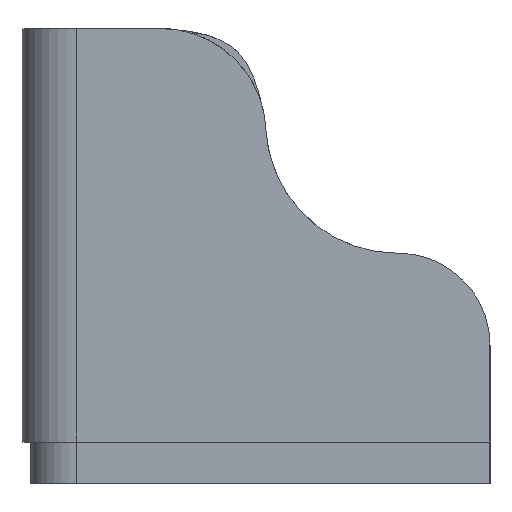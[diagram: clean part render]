
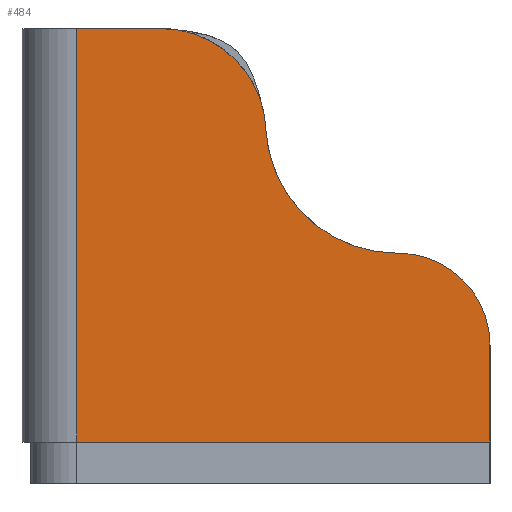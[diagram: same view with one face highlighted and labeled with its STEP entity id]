
A CAD part, left-side view. The second image highlights one B-rep face of the part: STEP entity #484.
In plain terms, the highlighted planar face has unit normal (-1, 0, 0).
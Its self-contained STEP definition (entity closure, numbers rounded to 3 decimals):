
#22=PLANE('',#534);
#38=B_SPLINE_CURVE_WITH_KNOTS('',3,(#916,#917,#918,#919,#920,#921,#922,
#923,#924,#925,#926,#927,#928,#929,#930,#931,#932,#933,#934),
 .UNSPECIFIED.,.F.,.F.,(4,3,3,3,3,3,4),(0.,0.49,0.979,
1.469,1.959,2.938,3.428),
 .UNSPECIFIED.);
#50=FACE_OUTER_BOUND('',#76,.T.);
#76=EDGE_LOOP('',(#382,#383,#384,#385,#386,#387,#388));
#102=LINE('',#824,#146);
#110=LINE('',#937,#154);
#114=LINE('',#945,#158);
#115=LINE('',#946,#159);
#146=VECTOR('',#592,10.);
#154=VECTOR('',#620,10.);
#158=VECTOR('',#626,10.);
#159=VECTOR('',#627,10.);
#187=CIRCLE('',#527,20.);
#190=CIRCLE('',#531,28.64);
#215=VERTEX_POINT('',#821);
#216=VERTEX_POINT('',#823);
#221=VERTEX_POINT('',#838);
#222=VERTEX_POINT('',#839);
#226=VERTEX_POINT('',#849);
#229=VERTEX_POINT('',#936);
#232=VERTEX_POINT('',#944);
#268=EDGE_CURVE('',#215,#216,#102,.T.);
#274=EDGE_CURVE('',#221,#222,#187,.T.);
#280=EDGE_CURVE('',#221,#226,#190,.T.);
#285=EDGE_CURVE('',#216,#226,#38,.T.);
#286=EDGE_CURVE('',#229,#222,#110,.T.);
#290=EDGE_CURVE('',#232,#215,#114,.T.);
#291=EDGE_CURVE('',#229,#232,#115,.T.);
#382=ORIENTED_EDGE('',*,*,#274,.F.);
#383=ORIENTED_EDGE('',*,*,#280,.T.);
#384=ORIENTED_EDGE('',*,*,#285,.F.);
#385=ORIENTED_EDGE('',*,*,#268,.F.);
#386=ORIENTED_EDGE('',*,*,#290,.F.);
#387=ORIENTED_EDGE('',*,*,#291,.F.);
#388=ORIENTED_EDGE('',*,*,#286,.T.);
#484=ADVANCED_FACE('',(#50),#22,.T.);
#527=AXIS2_PLACEMENT_3D('',#840,#601,#602);
#531=AXIS2_PLACEMENT_3D('',#854,#611,#612);
#534=AXIS2_PLACEMENT_3D('',#943,#624,#625);
#592=DIRECTION('',(0.,-1.,0.));
#601=DIRECTION('center_axis',(1.,0.,0.));
#602=DIRECTION('ref_axis',(0.,-0.705,0.709));
#611=DIRECTION('center_axis',(1.,0.,0.));
#612=DIRECTION('ref_axis',(0.,0.707,0.707));
#620=DIRECTION('',(0.,0.,1.));
#624=DIRECTION('center_axis',(-1.,0.,0.));
#625=DIRECTION('ref_axis',(0.,-1.,0.));
#626=DIRECTION('',(0.,0.,1.));
#627=DIRECTION('',(0.,1.,0.));
#821=CARTESIAN_POINT('',(-1.9,70.,99.));
#823=CARTESIAN_POINT('',(-1.9,51.341,99.));
#824=CARTESIAN_POINT('',(-1.9,-20.,99.));
#838=CARTESIAN_POINT('',(-1.9,0.103,50.11));
#839=CARTESIAN_POINT('',(-1.9,-20.,30.11));
#840=CARTESIAN_POINT('Origin',(-1.9,0.,
30.11));
#849=CARTESIAN_POINT('',(-1.9,28.863,77.489));
#854=CARTESIAN_POINT('Origin',(-1.9,0.251,78.749));
#916=CARTESIAN_POINT('Ctrl Pts',(-1.9,51.341,99.));
#917=CARTESIAN_POINT('Ctrl Pts',(-1.9,49.916,99.));
#918=CARTESIAN_POINT('Ctrl Pts',(-1.9,48.415,98.853));
#919=CARTESIAN_POINT('Ctrl Pts',(-1.9,46.884,98.526));
#920=CARTESIAN_POINT('Ctrl Pts',(-1.9,45.353,98.199));
#921=CARTESIAN_POINT('Ctrl Pts',(-1.9,43.791,97.692));
#922=CARTESIAN_POINT('Ctrl Pts',(-1.9,42.267,96.995));
#923=CARTESIAN_POINT('Ctrl Pts',(-1.9,40.742,96.298));
#924=CARTESIAN_POINT('Ctrl Pts',(-1.9,39.255,95.411));
#925=CARTESIAN_POINT('Ctrl Pts',(-1.9,37.871,94.357));
#926=CARTESIAN_POINT('Ctrl Pts',(-1.9,36.486,93.302));
#927=CARTESIAN_POINT('Ctrl Pts',(-1.9,35.203,92.079));
#928=CARTESIAN_POINT('Ctrl Pts',(-1.9,34.09,90.744));
#929=CARTESIAN_POINT('Ctrl Pts',(-1.9,31.865,88.073));
#930=CARTESIAN_POINT('Ctrl Pts',(-1.9,30.318,84.952));
#931=CARTESIAN_POINT('Ctrl Pts',(-1.9,29.527,81.921));
#932=CARTESIAN_POINT('Ctrl Pts',(-1.9,29.132,80.406));
#933=CARTESIAN_POINT('Ctrl Pts',(-1.9,28.926,78.914));
#934=CARTESIAN_POINT('Ctrl Pts',(-1.9,28.863,77.489));
#936=CARTESIAN_POINT('',(-1.9,-20.,9.));
#937=CARTESIAN_POINT('',(-1.9,-20.,9.));
#943=CARTESIAN_POINT('Origin',(-1.9,70.,9.));
#944=CARTESIAN_POINT('',(-1.9,70.,9.));
#945=CARTESIAN_POINT('',(-1.9,70.,9.));
#946=CARTESIAN_POINT('',(-1.9,-20.,9.));
